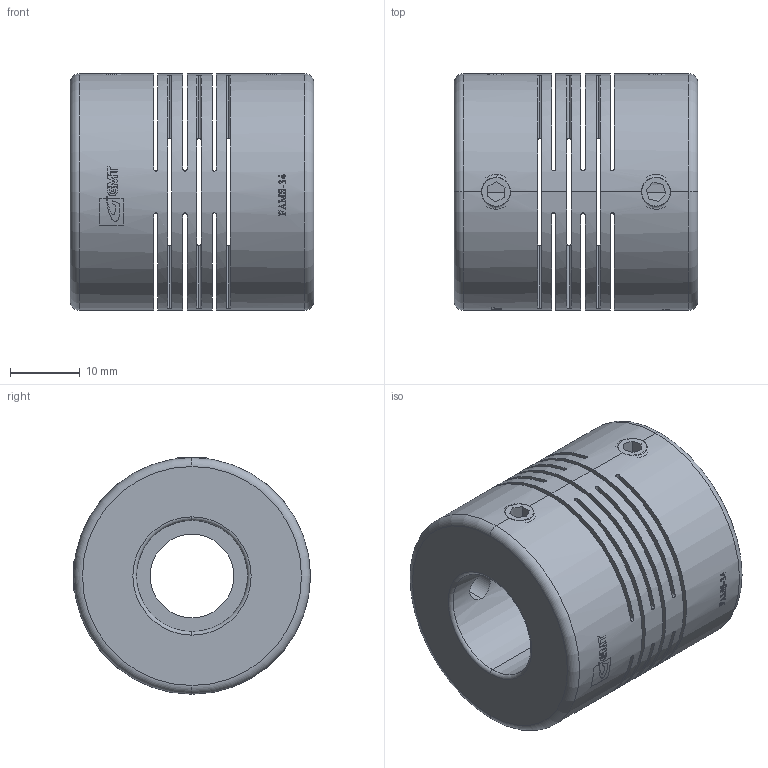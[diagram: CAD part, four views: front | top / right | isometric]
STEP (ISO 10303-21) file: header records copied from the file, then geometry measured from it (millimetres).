
FILE_DESCRIPTION (( 'STEP AP203' ), '1' );
FILE_NAME ('FAMS34-12x16.STEP', '2013-12-05T10:25:47', ( '123' ), ( '' ), 'SwSTEP 2.0', 'SolidWorks 2013', '' );
FILE_SCHEMA (( 'CONFIG_CONTROL_DESIGN' ));
Length unit declared in the file: millimetre
Products named in the file (1): FAMS34-12x16
Bounding box: 35 x 34 x 34 mm (x, y, z)
Surface area: 13646.9 mm2 (no closed solid volume)
Topology: 0 solids, 6 shells, 196 faces, 956 edges, 730 vertices
Faces by surface type: plane 82, cylinder 76, bspline 22, torus 8, cone 8
Entity records: 12207 total; most frequent: CARTESIAN_POINT 5504, ORIENTED_EDGE 1362, DIRECTION 1078, EDGE_CURVE 956, VERTEX_POINT 730, B_SPLINE_CURVE_WITH_KNOTS 442, AXIS2_PLACEMENT_3D 389, LINE 300
